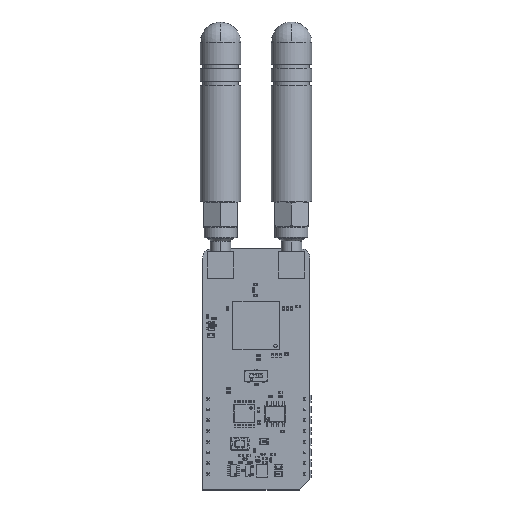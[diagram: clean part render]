
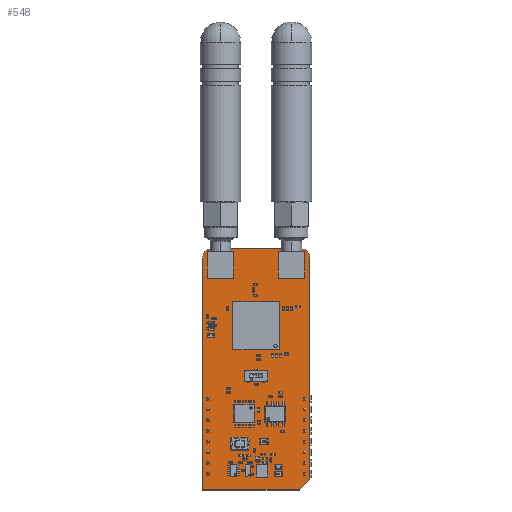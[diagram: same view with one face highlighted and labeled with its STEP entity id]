
A CAD part, top view. The second image highlights one B-rep face of the part: STEP entity #548.
In plain terms, the highlighted planar face has unit normal (0, 0, 1).
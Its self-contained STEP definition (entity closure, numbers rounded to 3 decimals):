
#319 = VERTEX_POINT('',#320);
#320 = CARTESIAN_POINT('',(-1.27,-3.81,0.));
#326 = EDGE_CURVE('',#319,#327,#329,.T.);
#327 = VERTEX_POINT('',#328);
#328 = CARTESIAN_POINT('',(-1.27,51.054,0.));
#329 = LINE('',#330,#331);
#330 = CARTESIAN_POINT('',(-1.27,-3.81,0.));
#331 = VECTOR('',#332,1.);
#332 = DIRECTION('',(0.,1.,0.));
#357 = EDGE_CURVE('',#327,#358,#360,.T.);
#358 = VERTEX_POINT('',#359);
#359 = CARTESIAN_POINT('',(1.016,53.34,0.));
#360 = CIRCLE('',#361,2.288);
#361 = AXIS2_PLACEMENT_3D('',#362,#363,#364);
#362 = CARTESIAN_POINT('',(1.018,51.052,0.));
#363 = DIRECTION('',(0.,0.,-1.));
#364 = DIRECTION('',(-1.,0.001,0.));
#390 = EDGE_CURVE('',#358,#391,#393,.T.);
#391 = VERTEX_POINT('',#392);
#392 = CARTESIAN_POINT('',(21.844,53.34,0.));
#393 = LINE('',#394,#395);
#394 = CARTESIAN_POINT('',(1.016,53.34,0.));
#395 = VECTOR('',#396,1.);
#396 = DIRECTION('',(1.,0.,0.));
#421 = EDGE_CURVE('',#391,#422,#424,.T.);
#422 = VERTEX_POINT('',#423);
#423 = CARTESIAN_POINT('',(24.13,51.054,0.));
#424 = CIRCLE('',#425,2.288);
#425 = AXIS2_PLACEMENT_3D('',#426,#427,#428);
#426 = CARTESIAN_POINT('',(21.842,51.052,0.));
#427 = DIRECTION('',(0.,0.,-1.));
#428 = DIRECTION('',(0.001,1.,0.));
#454 = EDGE_CURVE('',#422,#455,#457,.T.);
#455 = VERTEX_POINT('',#456);
#456 = CARTESIAN_POINT('',(24.13,-1.27,0.));
#457 = LINE('',#458,#459);
#458 = CARTESIAN_POINT('',(24.13,51.054,0.));
#459 = VECTOR('',#460,1.);
#460 = DIRECTION('',(0.,-1.,0.));
#485 = EDGE_CURVE('',#455,#486,#488,.T.);
#486 = VERTEX_POINT('',#487);
#487 = CARTESIAN_POINT('',(21.59,-3.81,0.));
#488 = LINE('',#489,#490);
#489 = CARTESIAN_POINT('',(24.13,-1.27,0.));
#490 = VECTOR('',#491,1.);
#491 = DIRECTION('',(-0.707,-0.707,0.));
#516 = EDGE_CURVE('',#486,#319,#517,.T.);
#517 = LINE('',#518,#519);
#518 = CARTESIAN_POINT('',(21.59,-3.81,0.));
#519 = VECTOR('',#520,1.);
#520 = DIRECTION('',(-1.,0.,0.));
#548 = ADVANCED_FACE('',(#549),#558,.T.);
#549 = FACE_BOUND('',#550,.F.);
#550 = EDGE_LOOP('',(#551,#552,#553,#554,#555,#556,#557));
#551 = ORIENTED_EDGE('',*,*,#326,.T.);
#552 = ORIENTED_EDGE('',*,*,#357,.T.);
#553 = ORIENTED_EDGE('',*,*,#390,.T.);
#554 = ORIENTED_EDGE('',*,*,#421,.T.);
#555 = ORIENTED_EDGE('',*,*,#454,.T.);
#556 = ORIENTED_EDGE('',*,*,#485,.T.);
#557 = ORIENTED_EDGE('',*,*,#516,.T.);
#558 = PLANE('',#559);
#559 = AXIS2_PLACEMENT_3D('',#560,#561,#562);
#560 = CARTESIAN_POINT('',(-1.27,-3.81,0.));
#561 = DIRECTION('',(0.,0.,1.));
#562 = DIRECTION('',(1.,0.,0.));
